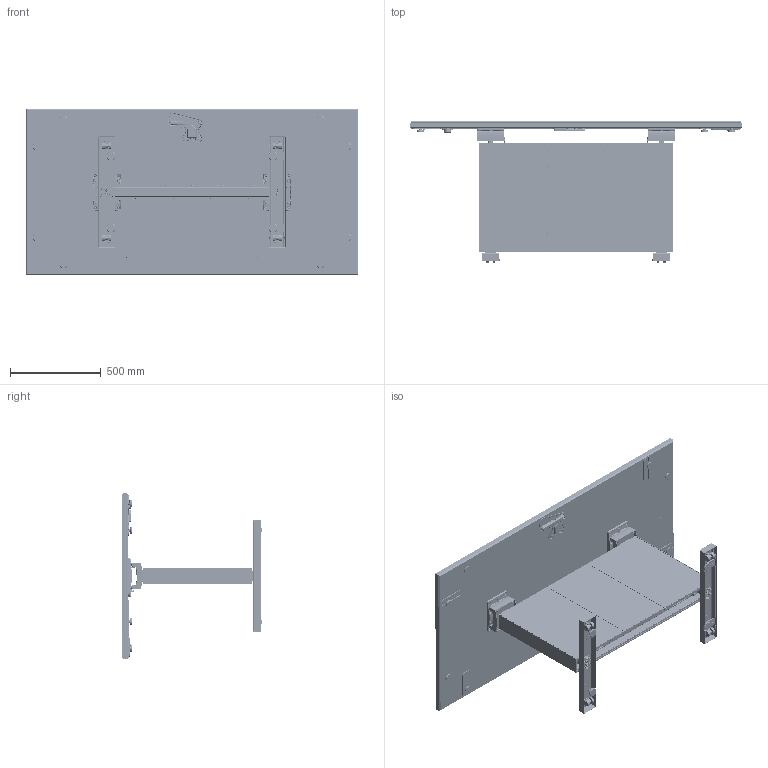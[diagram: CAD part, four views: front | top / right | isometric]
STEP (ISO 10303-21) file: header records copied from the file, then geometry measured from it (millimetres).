
FILE_DESCRIPTION(/* description */ (' - , , '),/* implementation_level */ '2;1');
FILE_NAME(/* name */ '72x36 Frameless.stp',/* time_stamp */ '2024-08-21T13:38:57-04:00',/* author */ ('jbylsma'),/* organization */ (''),/* preprocessor_version */ 'ST-DEVELOPER v20',/* originating_system */ 'Autodesk Inventor 2024',/* authorisation */ '');
FILE_SCHEMA (('AUTOMOTIVE_DESIGN { 1 0 10303 214 3 1 1 }'));
Products named in the file (71): Assembly1; APT3672_NPTN_BASE; HW7994; HW8042; HW8042B; HW8042A; HW8042C; HW8042D; HW7987; HW7976; HW7976B; HW7976A; HW7997; HW8020; HW7998; HW8038; HW8039; HW8010; HW8009; AP9012; AP8012; HW8004; HW8029; HW8036; HW8023; HW8001; HW8006; HW8005; HW0747; HW0758; HW5424N; HW8016; HW8017; HW0267; HW8018; HW2291; HW8014; 90935A149; HW1846N; HW0141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
Assembly tree (298 placements, depth 5):
  Assembly1
    APT3672_NPTN_BASE
      HW7994
      HW8042  x2
        HW8042B
        HW8042A
        HW8042C
        HW8042D
      HW7987
      HW7976
        HW7976B  x2
        HW7976A
      HW7997  x2
      HW8020  x4
      HW7998  x4
      HW8038  x2
      HW8039  x2
      HW8010  x8
      HW8009  x8
      AP9012
      AP8012
      HW8004
      HW8029
      HW8036  x2
      HW8023
      HW8001  x4
      HW8006  x4
      HW8005  x4
      HW0747  x20
      90935A149  x15
      HW0758  x8
      HW5424N  x2
      HW8016  x6
      HW8017  x12
      HW0267  x12
      HW8018  x16
      HW2291  x4
      HW8014  x8
      HW1846N  x6
      HW0141  x4
      HW6825  x8
      HW1660N  x4
      HW0579N  x2
      HW3063N
      HW8058
      HW3793N  x2
      HW7505N  x2
    SU-0000338-67
      PA-0001186-03
        PA-0001187-03
          PA-0001188-03
          RL-0000363-09
          RL-0000363-09_1
          RL-0000363-03
          RL-0000363-03_1
          FM-0000254-03
          FM-0000254-03_1
      GL-0000036-03
      HW8021N
        HW8021-C2  x2
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Bounding box: 1828.8 x 776.08 x 914.5 mm (x, y, z)
Volume: 89199580.8 mm3; surface area: 19832533.2 mm2
Topology: 360 solids, 360 shells, 25714 faces, 65282 edges, 40487 vertices
Faces by surface type: cylinder 9375, plane 6622, bspline 5198, torus 2249, cone 1619, sphere 651
Full cylindrical faces by diameter (mm): 1.041 x4, 1.699 x14, 2.13 x150, 2.381 x8, 2.474 x64, 2.487 x10, 2.642 x8, 2.778 x10, 2.845 x12, 3.092 x72, 3.107 x140, 3.302 x12, 3.394 x156, 3.451 x104, 3.505 x168, 3.556 x2, 3.566 x4, 3.683 x18, 3.797 x1, 3.81 x8, 4.166 x94, 4.445 x10, 4.496 x23, 4.7 x80, 4.775 x2, 4.826 x379, 4.978 x8, 5 x4, 5.105 x30, 5.372 x4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
Entity records: 473536 total; most frequent: CARTESIAN_POINT 244781, ORIENTED_EDGE 48678, DIRECTION 45549, EDGE_CURVE 24339, AXIS2_PLACEMENT_3D 18073, VERTEX_POINT 14643, EDGE_LOOP 10888, FACE_OUTER_BOUND 10139
